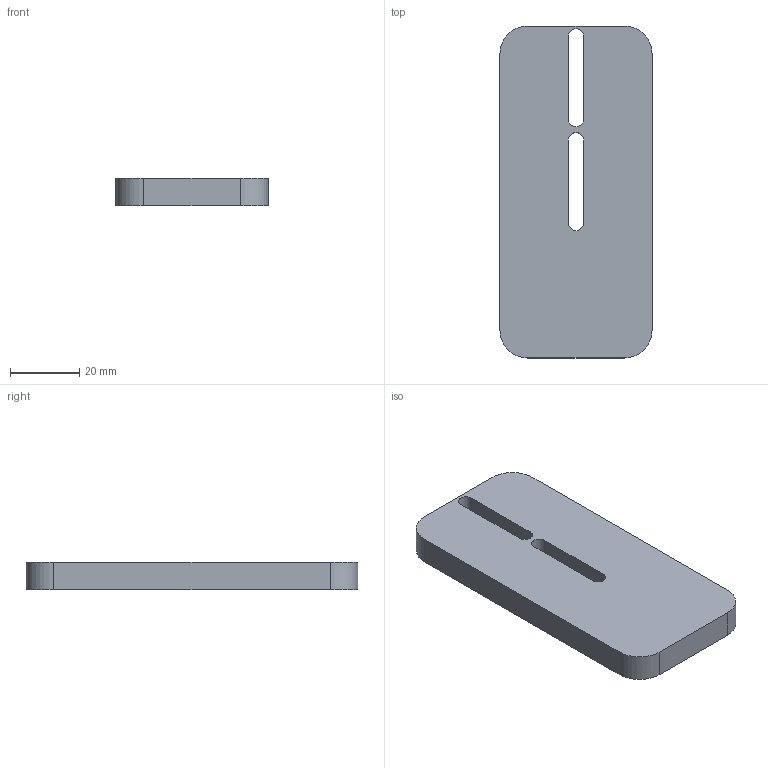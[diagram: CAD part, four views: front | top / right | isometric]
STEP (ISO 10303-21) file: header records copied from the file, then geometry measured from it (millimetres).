
FILE_DESCRIPTION(('Open CASCADE Model'),'2;1');
FILE_NAME('Open CASCADE Shape Model','2026-10-04T18:41:28',('Author'),( 'Open CASCADE'),'Open CASCADE STEP processor 7.8','Open CASCADE 7.8' ,'Unknown');
FILE_SCHEMA(('AUTOMOTIVE_DESIGN { 1 0 10303 214 1 1 1 1 }'));
Length unit declared in the file: millimetre
Products named in the file (1): Open CASCADE STEP translator 7.8 5
Bounding box: 44 x 96 x 8 mm (x, y, z)
Volume: 31419.6 mm3; surface area: 10974.2 mm2
Topology: 1 solids, 1 shells, 18 faces, 48 edges, 32 vertices
Faces by surface type: plane 10, cylinder 8
Entity records: 1202 total; most frequent: CARTESIAN_POINT 239, DIRECTION 174, ORIENTED_EDGE 96, PCURVE 96, DEFINITIONAL_REPRESENTATION 96, LINE 92, VECTOR 92, EDGE_CURVE 48
